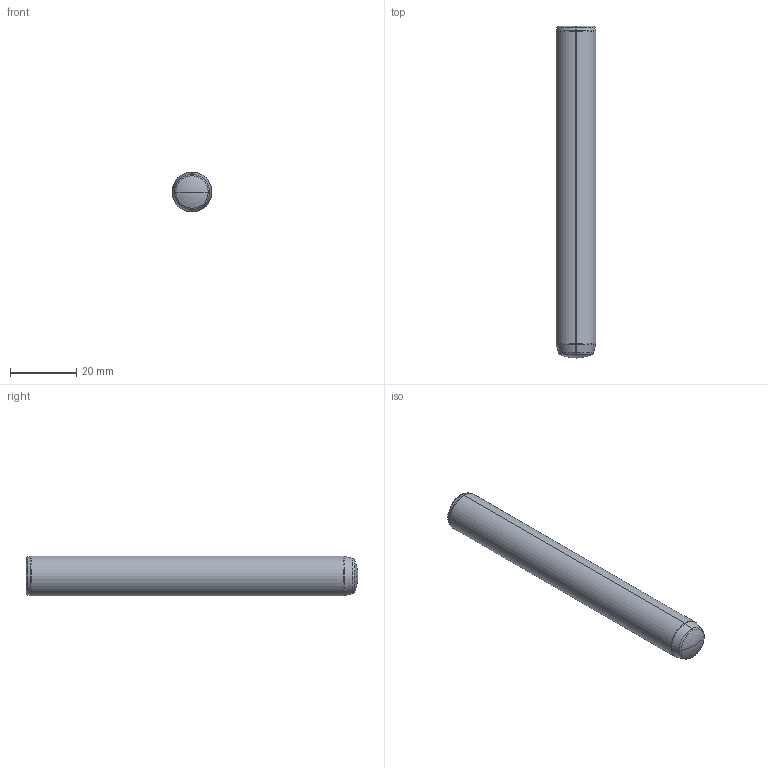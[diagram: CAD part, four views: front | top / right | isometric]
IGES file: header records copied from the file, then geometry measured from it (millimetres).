
Start section: SolidWorks IGES file using analytic representation for surfaces
Global section: file name: D:\Cleonir_arquivos\MT_15_07\Pinos Guia DIN 7979 ISO 8735 com rosca\PG712100.igs; native system: SolidWorks 2013; preprocessor: SolidWorks 2013; author: Cleonir; date: 130730.171421; units: millimetre
Bounding box: 12 x 100 x 12 mm (x, y, z)
Surface area: 4167.7 mm2 (no closed solid volume)
Topology: 0 solids, 0 shells, 277 faces, 2024 edges, 2021 vertices
Faces by surface type: bspline 255, revolution 22
